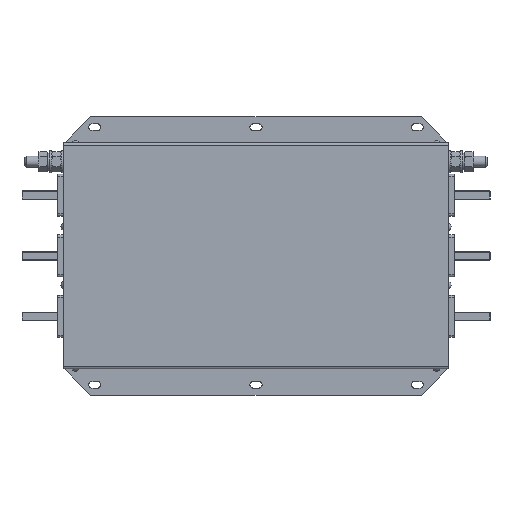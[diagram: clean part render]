
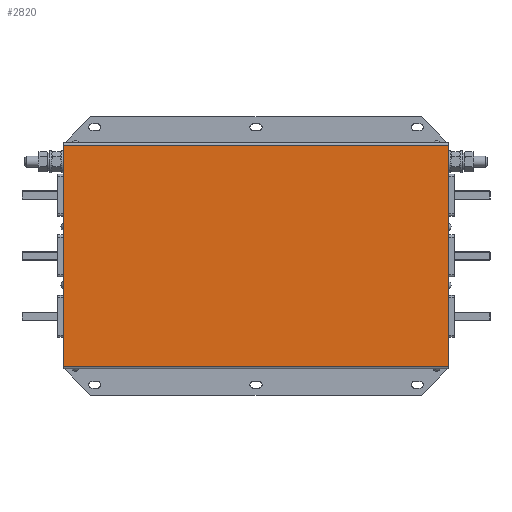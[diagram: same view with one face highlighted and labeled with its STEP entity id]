
A CAD part, top view. The second image highlights one B-rep face of the part: STEP entity #2820.
In plain terms, the highlighted planar face has unit normal (0, 0, 1).
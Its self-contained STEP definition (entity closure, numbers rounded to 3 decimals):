
#2820=ADVANCED_FACE('',(#4835),#4837,.T.);
#4835=FACE_BOUND('',#4836,.T.);
#4836=EDGE_LOOP('',(#7004,#7005,#7006,#7007));
#4837=PLANE('',#4838);
#4838=AXIS2_PLACEMENT_3D('',#4839,#4840,#4841);
#4839=CARTESIAN_POINT('',(0.,0.,1.));
#4840=DIRECTION('',(0.,0.,1.));
#4841=DIRECTION('',(1.,0.,0.));
#7004=ORIENTED_EDGE('',*,*,#8042,.T.);
#7005=ORIENTED_EDGE('',*,*,#8058,.T.);
#7006=ORIENTED_EDGE('',*,*,#8052,.T.);
#7007=ORIENTED_EDGE('',*,*,#8059,.T.);
#8042=EDGE_CURVE('',#9007,#9005,#9008,.T.);
#8052=EDGE_CURVE('',#9021,#9019,#9022,.T.);
#8058=EDGE_CURVE('',#9005,#9021,#9028,.T.);
#8059=EDGE_CURVE('',#9019,#9007,#9029,.T.);
#9005=VERTEX_POINT('',#11056);
#9007=VERTEX_POINT('',#11061);
#9008=LINE('',#11062,#11063);
#9019=VERTEX_POINT('',#11094);
#9021=VERTEX_POINT('',#11099);
#9022=LINE('',#11100,#11101);
#9028=LINE('',#11119,#11120);
#9029=LINE('',#11122,#11123);
#11056=CARTESIAN_POINT('',(175.,-100.5,1.));
#11061=CARTESIAN_POINT('',(-175.,-100.5,1.));
#11062=CARTESIAN_POINT('',(-175.,-100.5,1.));
#11063=VECTOR('',#11064,1.);
#11064=DIRECTION('',(1.,0.,0.));
#11094=CARTESIAN_POINT('',(-175.,100.5,1.));
#11099=CARTESIAN_POINT('',(175.,100.5,1.));
#11100=CARTESIAN_POINT('',(175.,100.5,1.));
#11101=VECTOR('',#11102,1.);
#11102=DIRECTION('',(-1.,0.,0.));
#11119=CARTESIAN_POINT('',(175.,-100.5,1.));
#11120=VECTOR('',#11121,1.);
#11121=DIRECTION('',(0.,1.,0.));
#11122=CARTESIAN_POINT('',(-175.,100.5,1.));
#11123=VECTOR('',#11124,1.);
#11124=DIRECTION('',(0.,-1.,0.));
